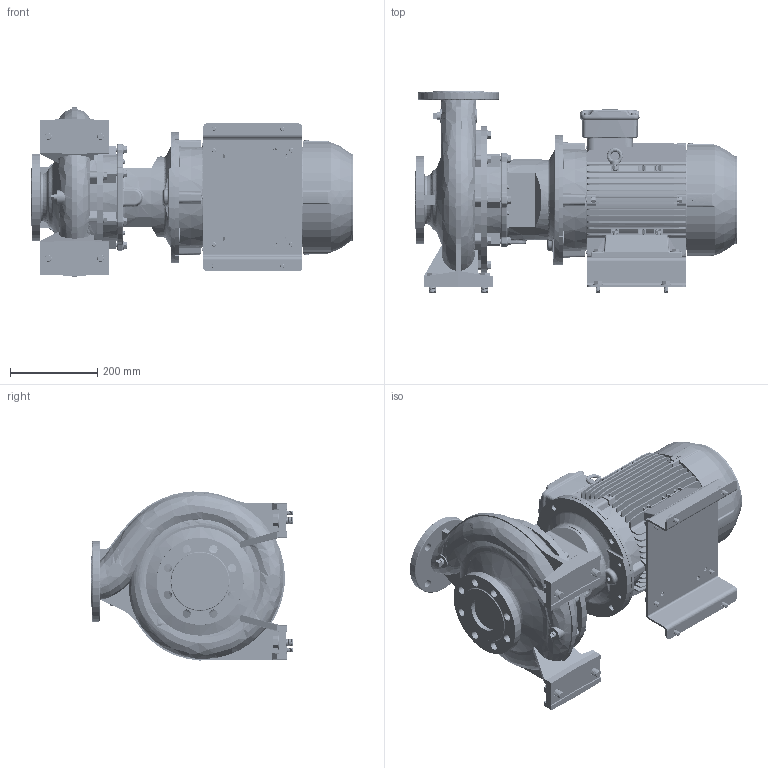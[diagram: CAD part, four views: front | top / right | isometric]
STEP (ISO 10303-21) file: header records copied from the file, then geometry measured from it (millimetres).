
FILE_DESCRIPTION (( 'STEP AP214' ), '1' );
FILE_NAME ('GSD4 65-250_7.5_(132M)_W21.STEP', '2026-07-01T02:03:45', ( '' ), ( '' ), 'SwSTEP 2.0', 'SolidWorks 2024', '' );
FILE_SCHEMA (( 'AUTOMOTIVE_DESIGN' ));
Length unit declared in the file: millimetre
Products named in the file (12): Parametric Flat Washer_M10; 132M ALIE3_W21T_B35; Parametric Flat Washer_M16; GSD4 65-250_7.5_(132M)_W21; Parametric bolt_SFT-A353B; 65-250-132M_ﾃﾞﾌｫﾙﾄ; Parametric bolt_SFT-A249B; Parametric bolt and washer_SFT-A253B; Parametric bolt_SFT-A253B; Parametric bolt and washer_SFT-A249B; 140_178 x 68 BP - 271472191; Parametric bolt and washer_SFT-A353B
Assembly tree (21 placements, depth 3):
  GSD4 65-250_7.5_(132M)_W21
    65-250-132M_ﾃﾞﾌｫﾙﾄ
    140_178 x 68 BP - 271472191
    Parametric bolt and washer_SFT-A249B  x4
      Parametric bolt_SFT-A249B
      Parametric Flat Washer_M10
    Parametric bolt and washer_SFT-A253B  x4
      Parametric bolt_SFT-A253B
      Parametric Flat Washer_M10
    Parametric bolt and washer_SFT-A353B  x4
      Parametric bolt_SFT-A353B
      Parametric Flat Washer_M16
    132M ALIE3_W21T_B35
Bounding box: 739.8 x 463 x 388.13 mm (x, y, z)
Volume: 34971751.8 mm3; surface area: 2353608.9 mm2
Topology: 31 solids, 31 shells, 5329 faces, 13882 edges, 8961 vertices
Faces by surface type: plane 3017, cylinder 1374, torus 327, bspline 299, cone 280, sphere 32
Entity records: 188240 total; most frequent: CARTESIAN_POINT 72918, ORIENTED_EDGE 25028, DIRECTION 22238, EDGE_CURVE 12514, VERTEX_POINT 8088, LINE 8036, VECTOR 8036, AXIS2_PLACEMENT_3D 7101
